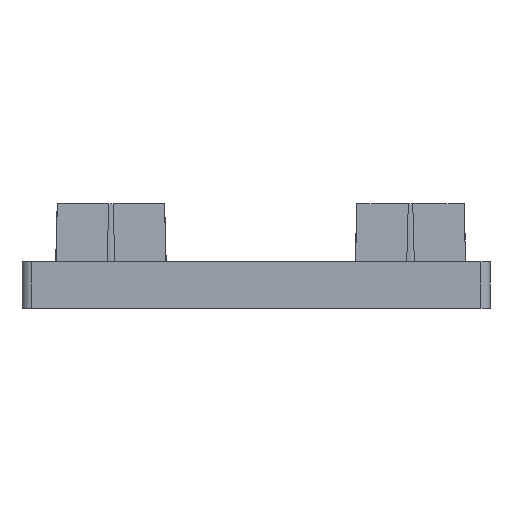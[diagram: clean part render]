
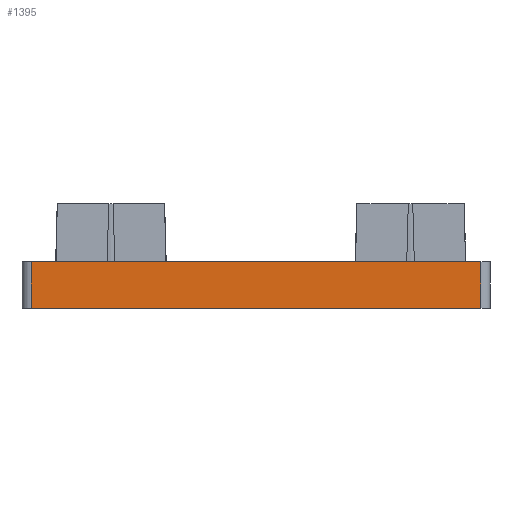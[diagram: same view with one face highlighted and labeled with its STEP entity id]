
A CAD part, front view. The second image highlights one B-rep face of the part: STEP entity #1395.
In plain terms, the highlighted planar face has unit normal (0, -1, 0).
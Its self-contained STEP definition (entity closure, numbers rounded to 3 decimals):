
#57 = DIRECTION ( 'NONE',  ( 0., 0., 1. ) ) ;
#89 = VECTOR ( 'NONE', #1290, 1000. ) ;
#98 = VECTOR ( 'NONE', #329, 1000. ) ;
#118 = DIRECTION ( 'NONE',  ( 0., 0., -1. ) ) ;
#143 = LINE ( 'NONE', #604, #531 ) ;
#190 = CARTESIAN_POINT ( 'NONE',  ( 0., 0., 0. ) ) ;
#205 = VERTEX_POINT ( 'NONE', #1514 ) ;
#221 = CARTESIAN_POINT ( 'NONE',  ( 48.99, 0., 5. ) ) ;
#304 = CARTESIAN_POINT ( 'NONE',  ( 0., 0., 5. ) ) ;
#329 = DIRECTION ( 'NONE',  ( 1., 0., 0. ) ) ;
#335 = ORIENTED_EDGE ( 'NONE', *, *, #605, .F. ) ;
#448 = EDGE_CURVE ( 'NONE', #205, #1755, #1434, .T. ) ;
#508 = DIRECTION ( 'NONE',  ( 0., 1., 0. ) ) ;
#531 = VECTOR ( 'NONE', #1032, 1000. ) ;
#604 = CARTESIAN_POINT ( 'NONE',  ( 50., 0., 0. ) ) ;
#605 = EDGE_CURVE ( 'NONE', #205, #996, #1622, .T. ) ;
#792 = PLANE ( 'NONE',  #1142 ) ;
#816 = ORIENTED_EDGE ( 'NONE', *, *, #1273, .F. ) ;
#882 = VERTEX_POINT ( 'NONE', #1200 ) ;
#996 = VERTEX_POINT ( 'NONE', #221 ) ;
#1027 = CARTESIAN_POINT ( 'NONE',  ( 48.99, 0., 5. ) ) ;
#1032 = DIRECTION ( 'NONE',  ( -1., 0., 0. ) ) ;
#1142 = AXIS2_PLACEMENT_3D ( 'NONE', #190, #508, #57 ) ;
#1200 = CARTESIAN_POINT ( 'NONE',  ( 48.99, 0., 0. ) ) ;
#1273 = EDGE_CURVE ( 'NONE', #882, #1755, #143, .T. ) ;
#1288 = ORIENTED_EDGE ( 'NONE', *, *, #1519, .T. ) ;
#1290 = DIRECTION ( 'NONE',  ( 0., 0., 1. ) ) ;
#1356 = VECTOR ( 'NONE', #118, 1000. ) ;
#1395 = ADVANCED_FACE ( 'NONE', ( #1804 ), #792, .F. ) ;
#1424 = CARTESIAN_POINT ( 'NONE',  ( 1., 0., 0. ) ) ;
#1434 = LINE ( 'NONE', #1424, #1356 ) ;
#1514 = CARTESIAN_POINT ( 'NONE',  ( 1., 0., 5. ) ) ;
#1519 = EDGE_CURVE ( 'NONE', #882, #996, #1726, .T. ) ;
#1524 = EDGE_LOOP ( 'NONE', ( #335, #1617, #816, #1288 ) ) ;
#1615 = CARTESIAN_POINT ( 'NONE',  ( 1., 0., 0. ) ) ;
#1617 = ORIENTED_EDGE ( 'NONE', *, *, #448, .T. ) ;
#1622 = LINE ( 'NONE', #304, #98 ) ;
#1726 = LINE ( 'NONE', #1027, #89 ) ;
#1755 = VERTEX_POINT ( 'NONE', #1615 ) ;
#1804 = FACE_OUTER_BOUND ( 'NONE', #1524, .T. ) ;
